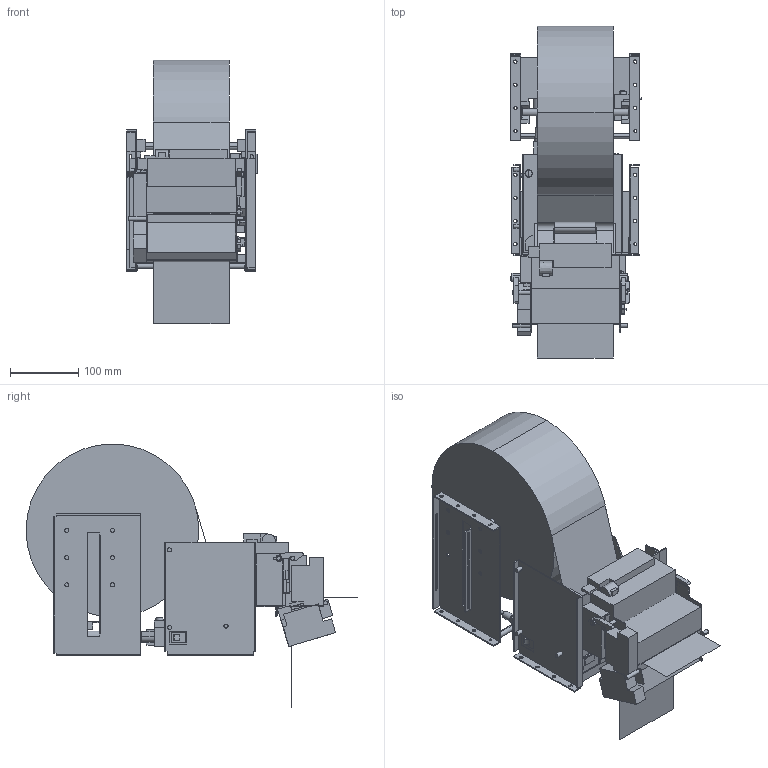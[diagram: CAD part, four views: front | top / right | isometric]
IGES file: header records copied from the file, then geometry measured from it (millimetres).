
Start section: Elysium IGES Interface
Global section: file name: X:\Sales\HP公開用\0916\TUP992_横置USB_0920_out.igs,    ; native system: Unknown; preprocessor: Unknown; author: CADDoctor; organization: ELYSIUM; date: 20110921.091405; units: millimetre
Bounding box: 192.1 x 487.9 x 388.1 mm (x, y, z)
Volume: 8692873.3 mm3; surface area: 841236.9 mm2
Topology: 16 solids, 16 shells, 894 faces, 2454 edges, 1627 vertices
Faces by surface type: bspline 894
